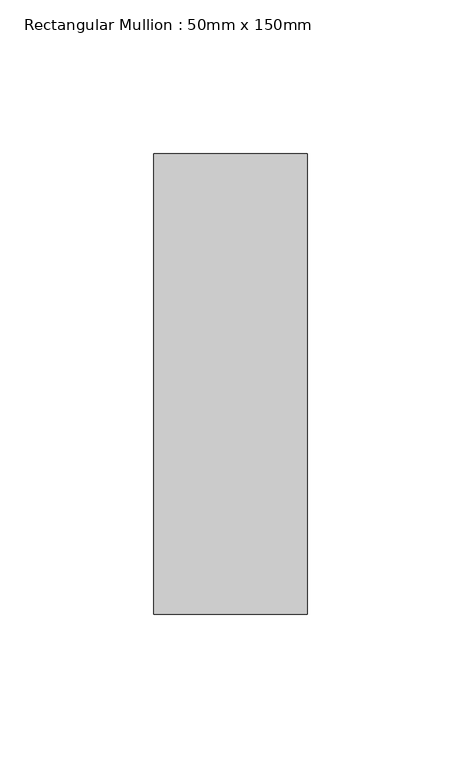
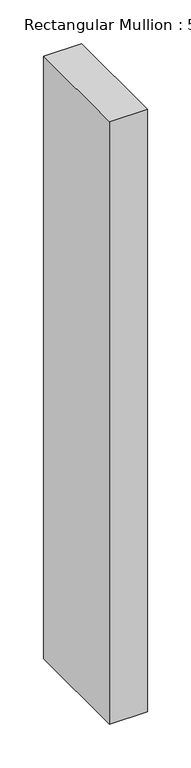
"""IFC4 building model written with IfcOpenShell, lengths in millimetres: member geometry, Rectangular Mullion : 50mm x 150mm."""

from ifc_helpers import new_model, si_unit, frame, origin, place, context, project, spatial, polyline, outline, extrude, source, transform, mapped, element, save


def rectangular_mullion_50mm_x_150mm_caa46ae3(model_context):
    return source(origin(), model_context, "Body", "SweptSolid", [
        extrude(outline(polyline([(25.0, 75.0), (25.0, -75.0), (-25.0, -75.0), (-25.0, 75.0), (25.0, 75.0)])), frame((0.0, 0.0, -838.7581578), z_axis=(0.0, 0.0, 1.0), x_axis=(1.0, 0.0, 0.0)), (0.0, 0.0, 1.0), 838.7581578),
    ])


if __name__ == "__main__":
    model = new_model("IFC4")
    model_context = context("Model", 3, world=origin())
    ifc_project = project(units=[si_unit("LENGTHUNIT", "METRE", prefix="MILLI")], contexts=[model_context])
    site = spatial("IfcSite", under=ifc_project)
    building = spatial("IfcBuilding", under=site)
    placement = place(None, origin())
    rectangular_mullion_50mm_x_150mm_shape = rectangular_mullion_50mm_x_150mm_caa46ae3(model_context)
    element("IfcMember", 1, ObjectType="Rectangular Mullion : 50mm x 150mm", at=placement, inside=building, context=model_context, shape_type="MappedRepresentation", body=[
        mapped(rectangular_mullion_50mm_x_150mm_shape, transform((0.0, 0.0, 0.0), x_axis=(1.0, 0.0, 0.0), y_axis=(0.0, 1.0, 0.0), z_axis=(0.0, 0.0, 1.0))),
    ])
    save(model, "model.ifc")
